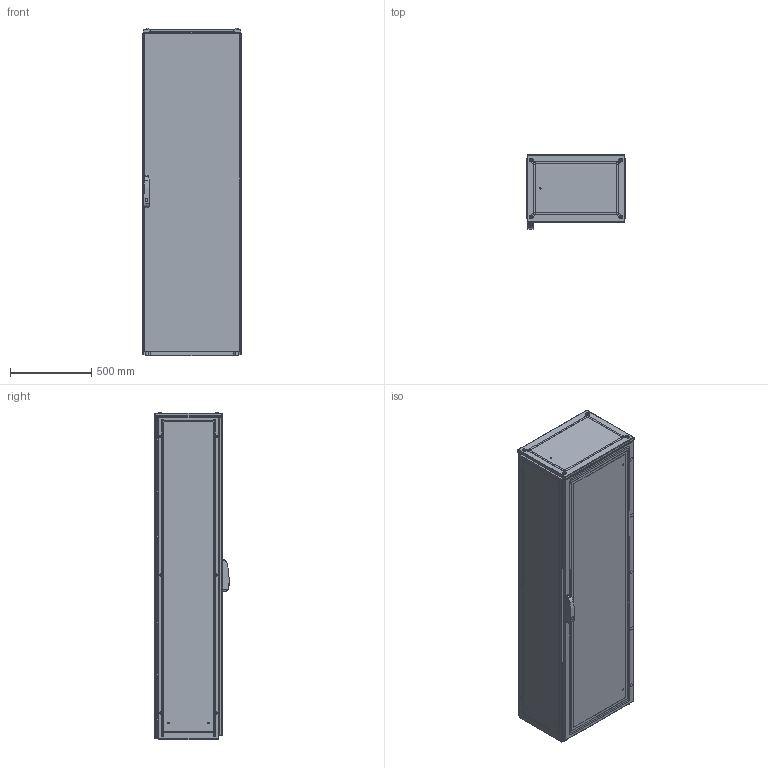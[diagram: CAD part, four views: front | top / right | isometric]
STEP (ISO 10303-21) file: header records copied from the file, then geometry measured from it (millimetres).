
FILE_DESCRIPTION(/* description */ ('STEP AP214'),/* implementation_level */ '2;1');
FILE_NAME(/* name */ 'ENUX062004PR-LOD350',/* time_stamp */ '2025-08-05T13:13:12+02:00',/* author */ ('License CC BY-ND 4.0'),/* organization */ ('CADENAS'),/* preprocessor_version */ 'ST-DEVELOPER v19.3',/* originating_system */ 'PARTsolutions',/* authorisation */ ' ');
FILE_SCHEMA (('AUTOMOTIVE_DESIGN {1 0 10303 214 3 1 1}'));
Length unit declared in the file: millimetre
Products named in the file (10): ENUX062004PR-LOD350; ENUX062004PR-LOD350_CON; ENUX062004PR-LOD350_floor1; ENUX062004PR-LOD350_floor2; Screw M12x30 architecture 350; ENUX062004PR-LOD350_side; ENUX062004PR-LOD350_top; ENUX062004PR-LOD350_back_door; ENUX062004PR-LOD350_door; ENUX062004PR-LOD350_handle
Assembly tree (14 placements, depth 2):
  ENUX062004PR-LOD350
    ENUX062004PR-LOD350_CON
    ENUX062004PR-LOD350_floor1  x2
    ENUX062004PR-LOD350_floor2
    Screw M12x30 architecture 350  x4
    ENUX062004PR-LOD350_side  x2
    ENUX062004PR-LOD350_top
    ENUX062004PR-LOD350_back_door
    ENUX062004PR-LOD350_door
    ENUX062004PR-LOD350_handle
Bounding box: 612 x 457 x 2014.1 mm (x, y, z)
Volume: 16367543.6 mm3; surface area: 14355313.1 mm2
Topology: 14 solids, 14 shells, 1704 faces, 4799 edges, 3132 vertices
Faces by surface type: plane 832, cylinder 707, cone 77, torus 72, sphere 16
Full cylindrical faces by diameter (mm): 4.5 x132, 6 x14, 6.8 x8, 9 x9, 12 x16, 13 x4, 18 x1, 21 x4
Entity records: 47395 total; most frequent: CARTESIAN_POINT 8209, DIRECTION 8205, ORIENTED_EDGE 7704, EDGE_CURVE 3852, AXIS2_PLACEMENT_3D 2930, VERTEX_POINT 2693, LINE 2345, VECTOR 2345
